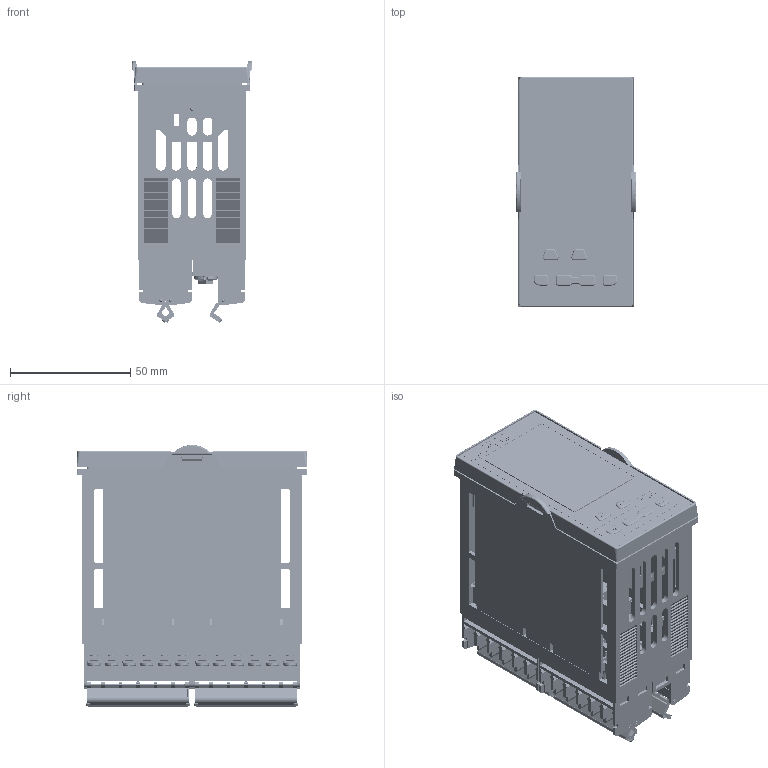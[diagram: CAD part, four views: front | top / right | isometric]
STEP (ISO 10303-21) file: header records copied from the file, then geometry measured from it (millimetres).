
FILE_DESCRIPTION((''),'2;1');
FILE_NAME('P108_IGES','2012-12-13T',('chrisloe'),(''),'PRO/ENGINEER BY PARAMETRIC TECHNOLOGY CORPORATION, 2010180','PRO/ENGINEER BY PARAMETRIC TECHNOLOGY CORPORATION, 2010180','');
FILE_SCHEMA(('CONFIG_CONTROL_DESIGN'));
Products named in the file (1): P108_IGES
Bounding box: 50 x 96 x 108.97 mm (x, y, z)
Volume: 94152.2 mm3; surface area: 136795.1 mm2
Topology: 1 solids, 105 shells, 14848 faces, 40588 edges, 25873 vertices
Faces by surface type: plane 12072, cylinder 2280, cone 269, torus 130, bspline 54, extrusion 28, sphere 15
Entity records: 470865 total; most frequent: CARTESIAN_POINT 99991, ORIENTED_EDGE 80968, DIRECTION 70923, EDGE_CURVE 40556, VECTOR 32119, LINE 32091, VERTEX_POINT 25873, AXIS2_PLACEMENT_3D 19402
